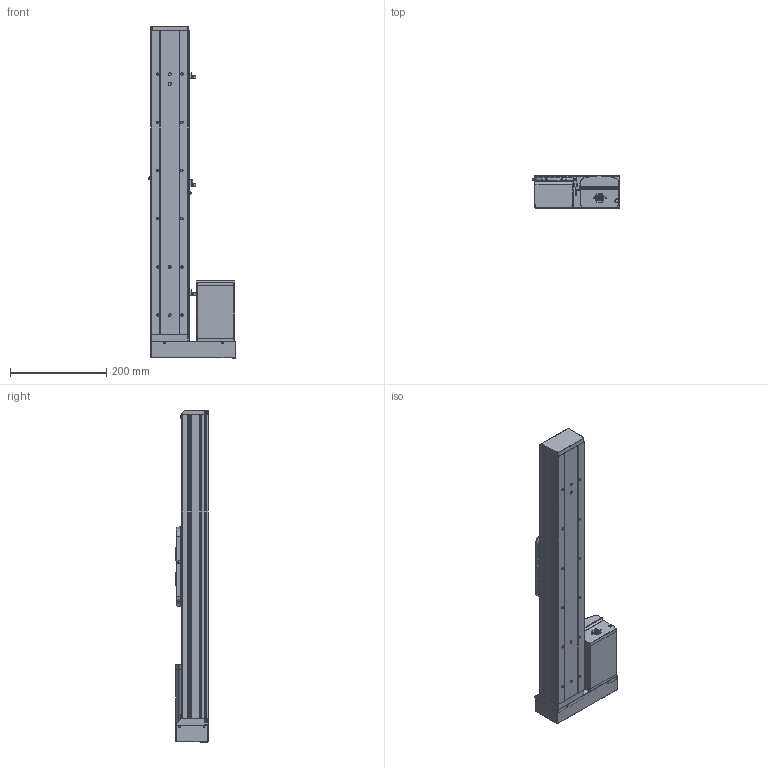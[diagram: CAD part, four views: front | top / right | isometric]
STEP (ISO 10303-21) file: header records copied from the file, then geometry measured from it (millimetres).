
FILE_DESCRIPTION (( 'STEP AP203' ), '1' );
FILE_NAME ('GERC80-450-NLXD.STEP', '2020-05-22T04:53:45', ( '' ), ( '' ), 'SwSTEP 2.0', 'SolidWorks 2019', '' );
FILE_SCHEMA (( 'CONFIG_CONTROL_DESIGN' ));
Length unit declared in the file: millimetre
Products named in the file (3): Group1^GERC80-450-NLXD_defeature_GMT; Group2^GERC80-450-NLXD_defeature_GMT; GERC80-450-NLXD
Assembly tree (2 placements, depth 2):
  GERC80-450-NLXD
    Group1^GERC80-450-NLXD_defeature_GMT
    Group2^GERC80-450-NLXD_defeature_GMT
Bounding box: 182 x 67.5 x 689 mm (x, y, z)
Volume: 2238714.6 mm3; surface area: 650593.8 mm2
Topology: 37 solids, 37 shells, 4204 faces, 11126 edges, 6980 vertices
Faces by surface type: plane 1481, cylinder 1235, cone 1006, bspline 256, torus 134, sphere 92
Entity records: 156317 total; most frequent: CARTESIAN_POINT 52486, DIRECTION 22234, ORIENTED_EDGE 21926, EDGE_CURVE 10963, AXIS2_PLACEMENT_3D 8478, VERTEX_POINT 6910, VECTOR 5278, LINE 5278
